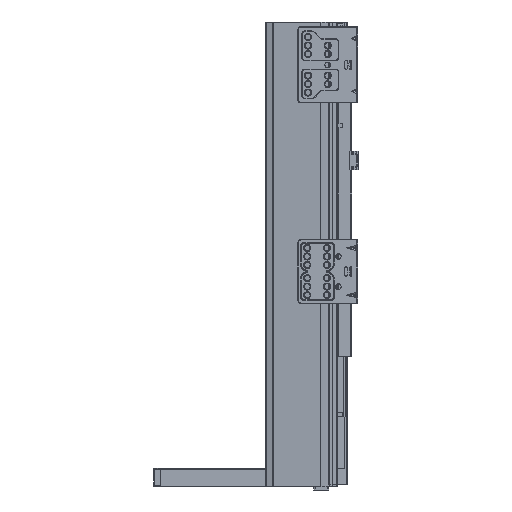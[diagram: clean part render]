
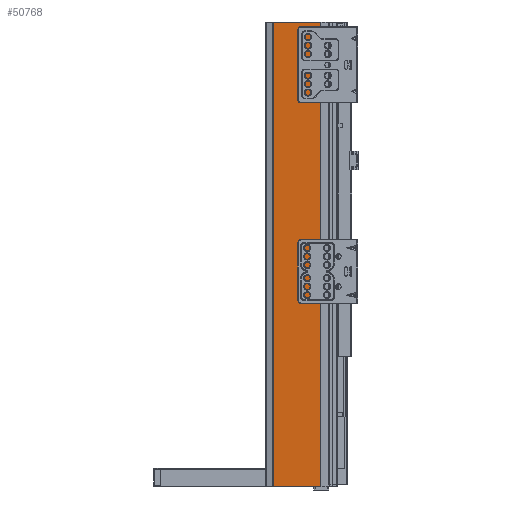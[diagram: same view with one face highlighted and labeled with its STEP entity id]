
A CAD part, left-side view. The second image highlights one B-rep face of the part: STEP entity #50768.
In plain terms, the highlighted planar face has unit normal (-0.996, 0.09, 0).
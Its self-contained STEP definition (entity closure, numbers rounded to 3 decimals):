
#1093=PLANE('',#53735);
#2700=FACE_OUTER_BOUND('',#5592,.T.);
#5592=EDGE_LOOP('',(#34519,#34520,#34521,#34522));
#8801=LINE('',#74201,#14043);
#8831=LINE('',#74294,#14073);
#8864=LINE('',#74377,#14106);
#8865=LINE('',#74379,#14107);
#14043=VECTOR('',#58808,50.178);
#14073=VECTOR('',#58894,50.178);
#14106=VECTOR('',#58987,493.);
#14107=VECTOR('',#58990,493.);
#21486=VERTEX_POINT('',#74198);
#21487=VERTEX_POINT('',#74200);
#21521=VERTEX_POINT('',#74291);
#21522=VERTEX_POINT('',#74293);
#26547=EDGE_CURVE('',#21486,#21487,#8801,.T.);
#26594=EDGE_CURVE('',#21521,#21522,#8831,.T.);
#26636=EDGE_CURVE('',#21522,#21486,#8864,.T.);
#26637=EDGE_CURVE('',#21487,#21521,#8865,.T.);
#34519=ORIENTED_EDGE('',*,*,#26594,.F.);
#34520=ORIENTED_EDGE('',*,*,#26637,.F.);
#34521=ORIENTED_EDGE('',*,*,#26547,.F.);
#34522=ORIENTED_EDGE('',*,*,#26636,.F.);
#50768=ADVANCED_FACE('',(#2700),#1093,.T.);
#53735=AXIS2_PLACEMENT_3D('',#74378,#58988,#58989);
#58808=DIRECTION('',(0.091,0.996,0.));
#58894=DIRECTION('',(-0.091,-0.996,0.));
#58987=DIRECTION('',(0.,0.,-1.));
#58988=DIRECTION('center_axis',(-0.996,0.091,0.));
#58989=DIRECTION('ref_axis',(0.091,0.996,0.));
#58990=DIRECTION('',(0.,0.,1.));
#74198=CARTESIAN_POINT('',(-2.932,-563.069,-579.639));
#74200=CARTESIAN_POINT('',(1.611,-513.097,-579.639));
#74201=CARTESIAN_POINT('',(-2.932,-563.069,-579.639));
#74291=CARTESIAN_POINT('',(1.611,-513.097,-86.639));
#74293=CARTESIAN_POINT('',(-2.932,-563.069,-86.639));
#74294=CARTESIAN_POINT('',(1.611,-513.097,-86.639));
#74377=CARTESIAN_POINT('',(-2.932,-563.069,-86.639));
#74378=CARTESIAN_POINT('Origin',(-0.66,-538.083,-86.639));
#74379=CARTESIAN_POINT('',(1.611,-513.097,-579.639));
